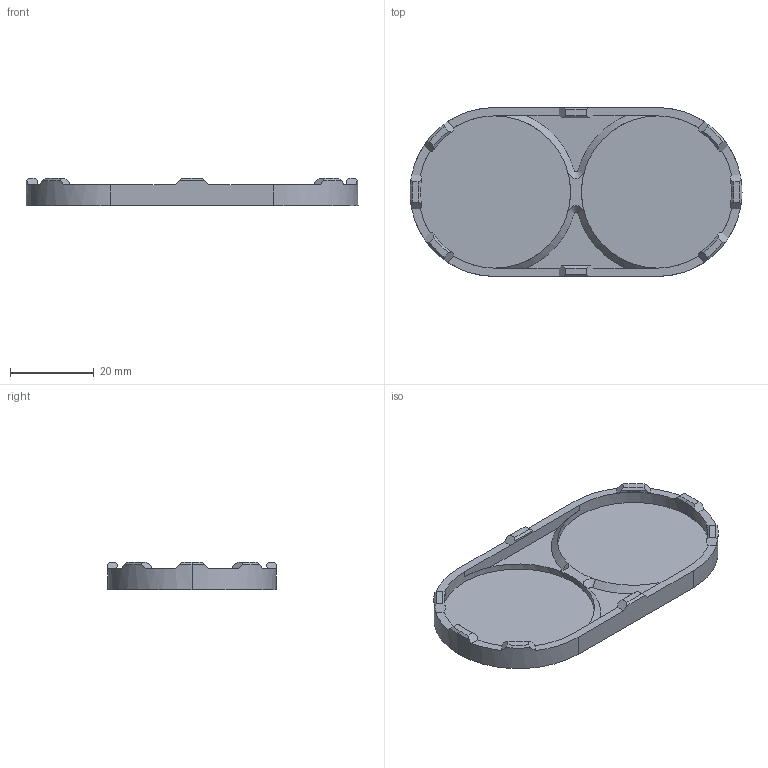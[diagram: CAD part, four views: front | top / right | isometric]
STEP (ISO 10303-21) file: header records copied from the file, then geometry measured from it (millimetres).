
FILE_DESCRIPTION (( 'STEP AP203' ), '1' );
FILE_NAME ('Double Mushroom Valve Holder_Part 2.STEP', '2025-06-17T18:20:03', ( '' ), ( '' ), 'SwSTEP 2.0', 'SolidWorks 2012', '' );
FILE_SCHEMA (( 'CONFIG_CONTROL_DESIGN' ));
Length unit declared in the file: millimetre
Products named in the file (1): Double Mushroom Valve Holder_Part 2
Bounding box: 79.4 x 40.4 x 6.5 mm (x, y, z)
Volume: 7215.2 mm3; surface area: 7707.4 mm2
Topology: 1 solids, 1 shells, 91 faces, 244 edges, 155 vertices
Faces by surface type: plane 50, cone 27, cylinder 14
Entity records: 2962 total; most frequent: CARTESIAN_POINT 691, ORIENTED_EDGE 488, DIRECTION 447, EDGE_CURVE 244, AXIS2_PLACEMENT_3D 175, VERTEX_POINT 155, VECTOR 97, LINE 97
